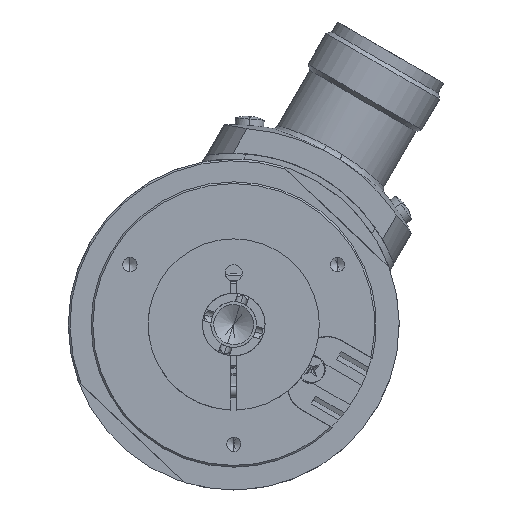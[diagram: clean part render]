
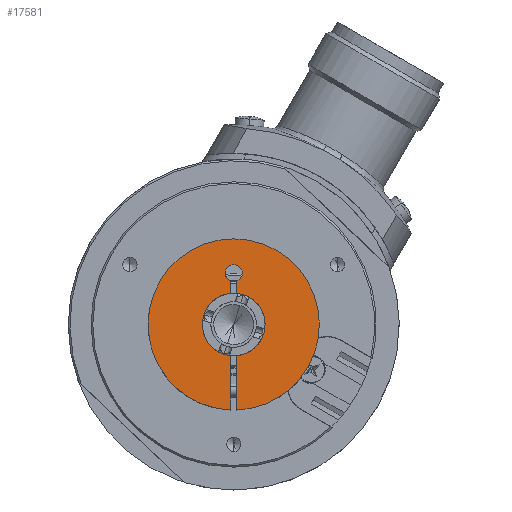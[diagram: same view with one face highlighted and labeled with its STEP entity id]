
A CAD part, left-side view. The second image highlights one B-rep face of the part: STEP entity #17581.
In plain terms, the highlighted planar face has unit normal (-1, 0, 0).
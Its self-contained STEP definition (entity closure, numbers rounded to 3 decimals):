
#1780 = FACE_OUTER_BOUND ( 'NONE', #14214, .T. ) ;
#3322 = CARTESIAN_POINT ( 'NONE',  ( -7., 0.5, -14.992 ) ) ;
#3763 = CARTESIAN_POINT ( 'NONE',  ( -7., -0.5, 5.477 ) ) ;
#5848 = EDGE_CURVE ( 'NONE', #21946, #21971, #15799, .T. ) ;
#5862 = EDGE_CURVE ( 'NONE', #21887, #9586, #15803, .T. ) ;
#5871 = EDGE_CURVE ( 'NONE', #10865, #21887, #15809, .T. ) ;
#5886 = EDGE_CURVE ( 'NONE', #9586, #21841, #15815, .T. ) ;
#5896 = EDGE_CURVE ( 'NONE', #21841, #21986, #15821, .T. ) ;
#5903 = EDGE_CURVE ( 'NONE', #21986, #21933, #15826, .T. ) ;
#5905 = EDGE_CURVE ( 'NONE', #21933, #21946, #15833, .T. ) ;
#5913 = EDGE_CURVE ( 'NONE', #21971, #9753, #15831, .T. ) ;
#5920 = EDGE_CURVE ( 'NONE', #9753, #21983, #15839, .T. ) ;
#5927 = EDGE_CURVE ( 'NONE', #21983, #10865, #15848, .T. ) ;
#9160 = CARTESIAN_POINT ( 'NONE',  ( -7., 0.5, -5.477 ) ) ;
#9206 = CARTESIAN_POINT ( 'NONE',  ( -7., 0., 15. ) ) ;
#9252 = CARTESIAN_POINT ( 'NONE',  ( -7., 0.5, 7.586 ) ) ;
#9265 = CARTESIAN_POINT ( 'NONE',  ( -7., 0., 10.5 ) ) ;
#9290 = CARTESIAN_POINT ( 'NONE',  ( -7., -0.5, 7.586 ) ) ;
#9302 = CARTESIAN_POINT ( 'NONE',  ( -7., -0.5, -5.477 ) ) ;
#9305 = CARTESIAN_POINT ( 'NONE',  ( -7., 0.5, 5.477 ) ) ;
#9586 = VERTEX_POINT ( 'NONE', #3322 ) ;
#9753 = VERTEX_POINT ( 'NONE', #3763 ) ;
#10865 = VERTEX_POINT ( 'NONE', #20377 ) ;
#11247 = AXIS2_PLACEMENT_3D ( 'NONE', #21242, #21314, #21236 ) ;
#11249 = AXIS2_PLACEMENT_3D ( 'NONE', #21355, #21356, #21357 ) ;
#11251 = AXIS2_PLACEMENT_3D ( 'NONE', #21365, #21366, #21367 ) ;
#11255 = AXIS2_PLACEMENT_3D ( 'NONE', #21429, #21430, #21431 ) ;
#11256 = AXIS2_PLACEMENT_3D ( 'NONE', #21437, #21438, #21439 ) ;
#11259 = AXIS2_PLACEMENT_3D ( 'NONE', #21454, #21455, #21456 ) ;
#12787 = ORIENTED_EDGE ( 'NONE', *, *, #5862, .T. ) ;
#12788 = ORIENTED_EDGE ( 'NONE', *, *, #5871, .T. ) ;
#12789 = ORIENTED_EDGE ( 'NONE', *, *, #5896, .T. ) ;
#12790 = ORIENTED_EDGE ( 'NONE', *, *, #5886, .T. ) ;
#12791 = ORIENTED_EDGE ( 'NONE', *, *, #5905, .T. ) ;
#12792 = ORIENTED_EDGE ( 'NONE', *, *, #5903, .T. ) ;
#12793 = ORIENTED_EDGE ( 'NONE', *, *, #5913, .T. ) ;
#12794 = ORIENTED_EDGE ( 'NONE', *, *, #5848, .T. ) ;
#12795 = ORIENTED_EDGE ( 'NONE', *, *, #5927, .T. ) ;
#12796 = ORIENTED_EDGE ( 'NONE', *, *, #5920, .T. ) ;
#14214 = EDGE_LOOP ( 'NONE', ( #12788, #12787, #12790, #12789, #12792, #12791, #12794, #12793, #12796, #12795 ) ) ;
#15799 = CIRCLE ( 'NONE', #11247, 1.5 ) ;
#15803 = CIRCLE ( 'NONE', #11249, 15. ) ;
#15809 = CIRCLE ( 'NONE', #11251, 15. ) ;
#15815 = LINE ( 'NONE', #21397, #15824 ) ;
#15821 = CIRCLE ( 'NONE', #11255, 5.5 ) ;
#15824 = VECTOR ( 'NONE', #21404, 1000. ) ;
#15826 = LINE ( 'NONE', #21428, #15834 ) ;
#15831 = LINE ( 'NONE', #21441, #15842 ) ;
#15833 = CIRCLE ( 'NONE', #11256, 1.5 ) ;
#15834 = VECTOR ( 'NONE', #21434, 1000. ) ;
#15839 = CIRCLE ( 'NONE', #11259, 5.5 ) ;
#15842 = VECTOR ( 'NONE', #21448, 1000. ) ;
#15848 = LINE ( 'NONE', #21460, #15851 ) ;
#15851 = VECTOR ( 'NONE', #21461, 1000. ) ;
#17581 = ADVANCED_FACE ( 'NONE', ( #1780 ), #22999, .T. ) ;
#20377 = CARTESIAN_POINT ( 'NONE',  ( -7., -0.5, -14.992 ) ) ;
#21236 = DIRECTION ( 'NONE',  ( 0., 0., -1. ) ) ;
#21242 = CARTESIAN_POINT ( 'NONE',  ( -7., 0., 9. ) ) ;
#21314 = DIRECTION ( 'NONE',  ( 1., 0., 0. ) ) ;
#21355 = CARTESIAN_POINT ( 'NONE',  ( -7., 0., 0. ) ) ;
#21356 = DIRECTION ( 'NONE',  ( -1., 0., 0. ) ) ;
#21357 = DIRECTION ( 'NONE',  ( 0., 0., -1. ) ) ;
#21365 = CARTESIAN_POINT ( 'NONE',  ( -7., 0., 0. ) ) ;
#21366 = DIRECTION ( 'NONE',  ( -1., 0., 0. ) ) ;
#21367 = DIRECTION ( 'NONE',  ( 0., 0., -1. ) ) ;
#21397 = CARTESIAN_POINT ( 'NONE',  ( -7., 0.5, -5.477 ) ) ;
#21404 = DIRECTION ( 'NONE',  ( 0., 0., 1. ) ) ;
#21428 = CARTESIAN_POINT ( 'NONE',  ( -7., 0.5, 7.586 ) ) ;
#21429 = CARTESIAN_POINT ( 'NONE',  ( -7., 0., 0. ) ) ;
#21430 = DIRECTION ( 'NONE',  ( 1., 0., 0. ) ) ;
#21431 = DIRECTION ( 'NONE',  ( 0., 0., -1. ) ) ;
#21434 = DIRECTION ( 'NONE',  ( 0., 0., 1. ) ) ;
#21437 = CARTESIAN_POINT ( 'NONE',  ( -7., 0., 9. ) ) ;
#21438 = DIRECTION ( 'NONE',  ( 1., 0., 0. ) ) ;
#21439 = DIRECTION ( 'NONE',  ( 0., 0., -1. ) ) ;
#21441 = CARTESIAN_POINT ( 'NONE',  ( -7., -0.5, 7.586 ) ) ;
#21448 = DIRECTION ( 'NONE',  ( 0., 0., -1. ) ) ;
#21454 = CARTESIAN_POINT ( 'NONE',  ( -7., 0., 0. ) ) ;
#21455 = DIRECTION ( 'NONE',  ( 1., 0., 0. ) ) ;
#21456 = DIRECTION ( 'NONE',  ( 0., 0., -1. ) ) ;
#21460 = CARTESIAN_POINT ( 'NONE',  ( -7., -0.5, -5.477 ) ) ;
#21461 = DIRECTION ( 'NONE',  ( 0., 0., -1. ) ) ;
#21841 = VERTEX_POINT ( 'NONE', #9160 ) ;
#21887 = VERTEX_POINT ( 'NONE', #9206 ) ;
#21933 = VERTEX_POINT ( 'NONE', #9252 ) ;
#21946 = VERTEX_POINT ( 'NONE', #9265 ) ;
#21971 = VERTEX_POINT ( 'NONE', #9290 ) ;
#21983 = VERTEX_POINT ( 'NONE', #9302 ) ;
#21986 = VERTEX_POINT ( 'NONE', #9305 ) ;
#22997 = CARTESIAN_POINT ( 'NONE',  ( -7., 0., 0. ) ) ;
#22999 = PLANE ( 'NONE',  #25815 ) ;
#23002 = DIRECTION ( 'NONE',  ( -1., 0., 0. ) ) ;
#23003 = DIRECTION ( 'NONE',  ( 0., 0., -1. ) ) ;
#25815 = AXIS2_PLACEMENT_3D ( 'NONE', #22997, #23002, #23003 ) ;
